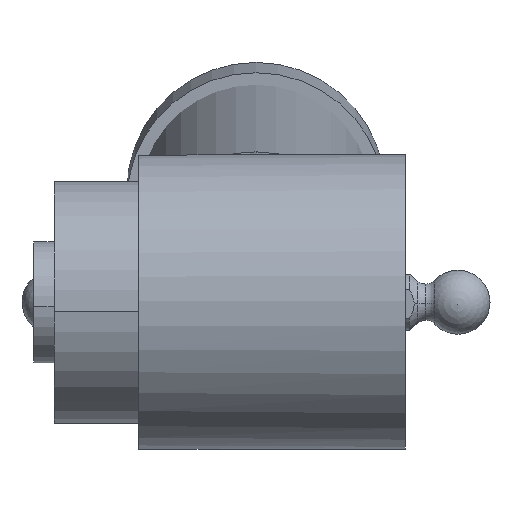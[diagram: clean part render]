
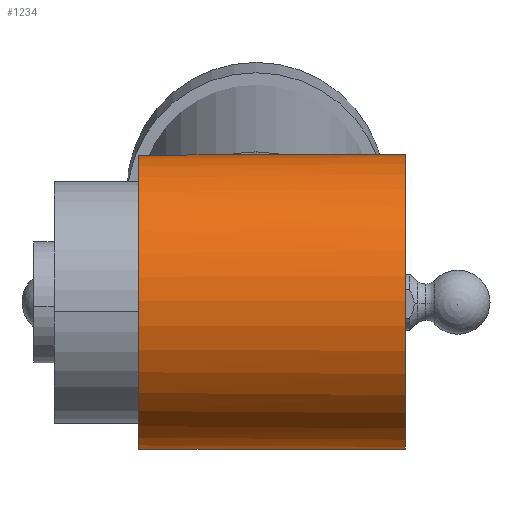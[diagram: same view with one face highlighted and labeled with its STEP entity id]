
A CAD part, left-side view. The second image highlights one B-rep face of the part: STEP entity #1234.
In plain terms, the highlighted cylindrical face has radius 36.5 mm (diameter 73 mm), a partial arc.
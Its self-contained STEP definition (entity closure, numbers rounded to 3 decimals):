
#3 = CARTESIAN_POINT ( 'NONE',  ( 206.244, 11.243, -239.037 ) ) ;
#46 = AXIS2_PLACEMENT_3D ( 'NONE', #3150, #2492, #1687 ) ;
#68 = CARTESIAN_POINT ( 'NONE',  ( 211.041, 4.836, -309.79 ) ) ;
#252 = VERTEX_POINT ( 'NONE', #1781 ) ;
#286 = DIRECTION ( 'NONE',  ( -0.997, 0., -0.077 ) ) ;
#302 = CARTESIAN_POINT ( 'NONE',  ( 209.985, 29., -239.892 ) ) ;
#373 = ORIENTED_EDGE ( 'NONE', *, *, #842, .T. ) ;
#445 = CARTESIAN_POINT ( 'NONE',  ( 211.484, -9.798, -309.649 ) ) ;
#568 = CARTESIAN_POINT ( 'NONE',  ( 205.617, 5.631, -238.935 ) ) ;
#694 = CARTESIAN_POINT ( 'NONE',  ( 214.59, -26.194, -308.465 ) ) ;
#728 = CARTESIAN_POINT ( 'NONE',  ( 212.324, 15.353, -309.359 ) ) ;
#748 = CARTESIAN_POINT ( 'NONE',  ( 210.886, -1.478, -309.839 ) ) ;
#764 = CARTESIAN_POINT ( 'NONE',  ( 207.412, -17.996, -239.255 ) ) ;
#770 = CARTESIAN_POINT ( 'NONE',  ( 211.507, 9.777, -309.639 ) ) ;
#787 = CARTESIAN_POINT ( 'NONE',  ( 205.439, -2.81, -238.907 ) ) ;
#820 = CARTESIAN_POINT ( 'NONE',  ( 209.985, 29., -239.892 ) ) ;
#826 = CARTESIAN_POINT ( 'NONE',  ( 200., 0., -275. ) ) ;
#842 = EDGE_CURVE ( 'NONE', #2572, #2613, #923, .T. ) ;
#890 = CARTESIAN_POINT ( 'NONE',  ( 200., 29., -275. ) ) ;
#923 = B_SPLINE_CURVE_WITH_KNOTS ( 'NONE', 3,
 ( #3844, #1065, #2321, #2301, #3543, #764, #1997, #3234, #3563, #787, #926, #3012, #1830, #1204, #568, #3721, #3058, #1546, #3, #2143, #2773, #1808, #2751, #302 ),
 .UNSPECIFIED., .F., .F.,
 ( 4, 2, 2, 2, 2, 2, 2, 2, 2, 2, 2, 4 ),
 ( 0.066, 0.074, 0.083, 0.091, 0.099, 0.103, 0.108, 0.11, 0.112, 0.116, 0.124, 0.133 ),
 .UNSPECIFIED. ) ;
#926 = CARTESIAN_POINT ( 'NONE',  ( 205.396, -1.412, -238.901 ) ) ;
#984 = CARTESIAN_POINT ( 'NONE',  ( 215.266, 29., -308.154 ) ) ;
#1013 = CARTESIAN_POINT ( 'NONE',  ( 212.314, -15.29, -309.363 ) ) ;
#1049 = VERTEX_POINT ( 'NONE', #984 ) ;
#1050 = CARTESIAN_POINT ( 'NONE',  ( 210.883, 1.319, -309.84 ) ) ;
#1065 = CARTESIAN_POINT ( 'NONE',  ( 211.377, -34.31, -240.309 ) ) ;
#1069 = CARTESIAN_POINT ( 'NONE',  ( 212.844, 18.107, -309.171 ) ) ;
#1133 = ORIENTED_EDGE ( 'NONE', *, *, #3072, .F. ) ;
#1204 = CARTESIAN_POINT ( 'NONE',  ( 205.564, 4.922, -238.927 ) ) ;
#1234 = ADVANCED_FACE ( 'NONE', ( #1993 ), #1971, .T. ) ;
#1294 = CARTESIAN_POINT ( 'NONE',  ( 210.922, 2.723, -309.828 ) ) ;
#1374 = CARTESIAN_POINT ( 'NONE',  ( 212.122, -37., -240.572 ) ) ;
#1523 = EDGE_CURVE ( 'NONE', #1049, #252, #2166, .T. ) ;
#1546 = CARTESIAN_POINT ( 'NONE',  ( 206.051, 9.85, -239.005 ) ) ;
#1582 = EDGE_LOOP ( 'NONE', ( #1133, #3202, #1907, #373 ) ) ;
#1612 = CARTESIAN_POINT ( 'NONE',  ( 215.266, 29., -308.154 ) ) ;
#1670 = CARTESIAN_POINT ( 'NONE',  ( 212.828, -18.023, -309.177 ) ) ;
#1687 = DIRECTION ( 'NONE',  ( 0.997, 0., 0.077 ) ) ;
#1781 = CARTESIAN_POINT ( 'NONE',  ( 217.274, -37., -307.154 ) ) ;
#1808 = CARTESIAN_POINT ( 'NONE',  ( 208.64, 23.595, -239.532 ) ) ;
#1830 = CARTESIAN_POINT ( 'NONE',  ( 205.438, 2.802, -238.907 ) ) ;
#1907 = ORIENTED_EDGE ( 'NONE', *, *, #2776, .F. ) ;
#1917 = CARTESIAN_POINT ( 'NONE',  ( 216.579, -34.315, -307.527 ) ) ;
#1961 = CARTESIAN_POINT ( 'NONE',  ( 211.209, 6.955, -309.736 ) ) ;
#1971 = CYLINDRICAL_SURFACE ( 'NONE', #3403, 36.5 ) ;
#1982 = CARTESIAN_POINT ( 'NONE',  ( 211.17, -7.039, -309.749 ) ) ;
#1993 = FACE_OUTER_BOUND ( 'NONE', #1582, .T. ) ;
#1997 = CARTESIAN_POINT ( 'NONE',  ( 206.876, -15.257, -239.151 ) ) ;
#2003 = CARTESIAN_POINT ( 'NONE',  ( 211.277, 7.663, -309.714 ) ) ;
#2039 = CIRCLE ( 'NONE', #46, 36.5 ) ;
#2143 = CARTESIAN_POINT ( 'NONE',  ( 206.901, 15.401, -239.156 ) ) ;
#2166 = B_SPLINE_CURVE_WITH_KNOTS ( 'NONE', 3,
 ( #1612, #3828, #3772, #1069, #728, #3547, #770, #2003, #1961, #2840, #68, #1294, #1050, #748, #2529, #1982, #445, #1013, #1670, #3465, #694, #3487, #1917, #2864 ),
 .UNSPECIFIED., .F., .F.,
 ( 4, 2, 2, 2, 2, 2, 2, 2, 2, 2, 2, 4 ),
 ( 0.325, 0.333, 0.341, 0.346, 0.348, 0.35, 0.354, 0.358, 0.367, 0.375, 0.384, 0.392 ),
 .UNSPECIFIED. ) ;
#2301 = CARTESIAN_POINT ( 'NONE',  ( 209.266, -26.183, -239.688 ) ) ;
#2321 = CARTESIAN_POINT ( 'NONE',  ( 210.651, -31.611, -240.081 ) ) ;
#2492 = DIRECTION ( 'NONE',  ( 0., -1., 0. ) ) ;
#2529 = CARTESIAN_POINT ( 'NONE',  ( 210.928, -2.872, -309.826 ) ) ;
#2572 = VERTEX_POINT ( 'NONE', #1374 ) ;
#2613 = VERTEX_POINT ( 'NONE', #820 ) ;
#2751 = CARTESIAN_POINT ( 'NONE',  ( 209.296, 26.303, -239.696 ) ) ;
#2773 = CARTESIAN_POINT ( 'NONE',  ( 207.443, 18.144, -239.262 ) ) ;
#2776 = EDGE_CURVE ( 'NONE', #2572, #252, #2039, .T. ) ;
#2840 = CARTESIAN_POINT ( 'NONE',  ( 211.091, 5.541, -309.774 ) ) ;
#2864 = CARTESIAN_POINT ( 'NONE',  ( 217.274, -37., -307.154 ) ) ;
#2928 = DIRECTION ( 'NONE',  ( 0., -1., 0. ) ) ;
#3012 = CARTESIAN_POINT ( 'NONE',  ( 205.395, 1.394, -238.901 ) ) ;
#3015 = CIRCLE ( 'NONE', #3573, 36.5 ) ;
#3058 = CARTESIAN_POINT ( 'NONE',  ( 205.812, 7.746, -238.966 ) ) ;
#3072 = EDGE_CURVE ( 'NONE', #1049, #2613, #3015, .T. ) ;
#3150 = CARTESIAN_POINT ( 'NONE',  ( 200., -37., -275. ) ) ;
#3202 = ORIENTED_EDGE ( 'NONE', *, *, #1523, .T. ) ;
#3234 = CARTESIAN_POINT ( 'NONE',  ( 206.012, -9.753, -238.996 ) ) ;
#3358 = DIRECTION ( 'NONE',  ( 0., 1., 0. ) ) ;
#3403 = AXIS2_PLACEMENT_3D ( 'NONE', #826, #2928, #3859 ) ;
#3465 = CARTESIAN_POINT ( 'NONE',  ( 213.966, -23.475, -308.728 ) ) ;
#3487 = CARTESIAN_POINT ( 'NONE',  ( 215.897, -31.618, -307.864 ) ) ;
#3543 = CARTESIAN_POINT ( 'NONE',  ( 208.607, -23.458, -239.524 ) ) ;
#3547 = CARTESIAN_POINT ( 'NONE',  ( 211.692, 11.177, -309.577 ) ) ;
#3563 = CARTESIAN_POINT ( 'NONE',  ( 205.687, -6.988, -238.945 ) ) ;
#3573 = AXIS2_PLACEMENT_3D ( 'NONE', #890, #3358, #286 ) ;
#3721 = CARTESIAN_POINT ( 'NONE',  ( 205.741, 7.043, -238.954 ) ) ;
#3772 = CARTESIAN_POINT ( 'NONE',  ( 213.989, 23.578, -308.719 ) ) ;
#3828 = CARTESIAN_POINT ( 'NONE',  ( 214.614, 26.295, -308.454 ) ) ;
#3844 = CARTESIAN_POINT ( 'NONE',  ( 212.122, -37., -240.572 ) ) ;
#3859 = DIRECTION ( 'NONE',  ( 0.997, 0., 0.077 ) ) ;
